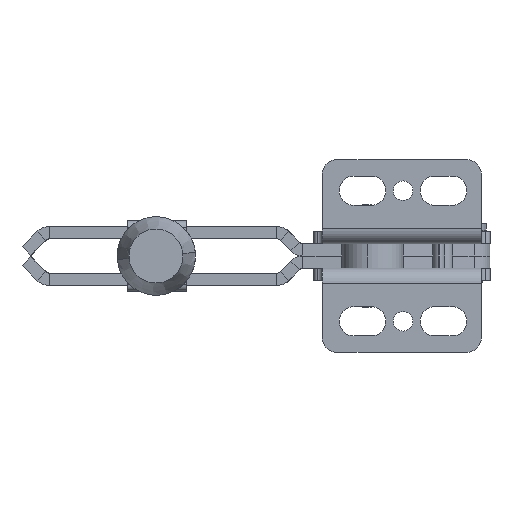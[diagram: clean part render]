
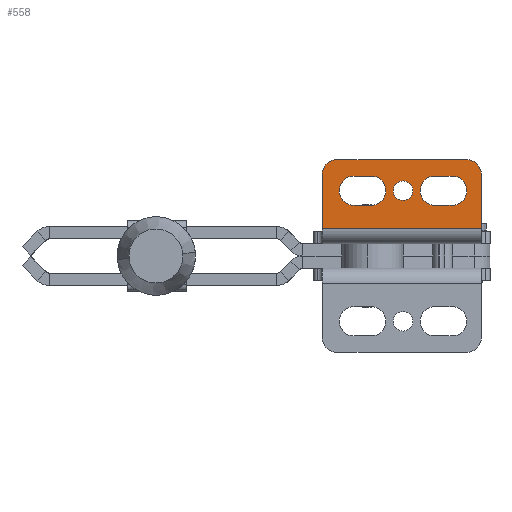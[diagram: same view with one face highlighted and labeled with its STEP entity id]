
A CAD part, front view. The second image highlights one B-rep face of the part: STEP entity #558.
In plain terms, the highlighted planar face has unit normal (0, -1, 0).
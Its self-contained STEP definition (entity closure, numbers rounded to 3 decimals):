
#81 = VERTEX_POINT ( 'NONE', #15462 ) ;
#450 = EDGE_CURVE ( 'NONE', #9881, #18048, #20553, .T. ) ;
#558 = ADVANCED_FACE ( 'NONE', ( #19271, #20766, #6140, #20893 ), #19028, .F. ) ;
#619 = CIRCLE ( 'NONE', #12895, 3. ) ;
#784 = DIRECTION ( 'NONE',  ( 1., 0., 0. ) ) ;
#863 = VERTEX_POINT ( 'NONE', #11070 ) ;
#865 = DIRECTION ( 'NONE',  ( 0., 0., -1. ) ) ;
#913 = VERTEX_POINT ( 'NONE', #22316 ) ;
#1269 = LINE ( 'NONE', #16247, #20391 ) ;
#1567 = AXIS2_PLACEMENT_3D ( 'NONE', #21122, #2183, #4160 ) ;
#1611 = DIRECTION ( 'NONE',  ( 0., 0., 1. ) ) ;
#1620 = DIRECTION ( 'NONE',  ( 0., 0., -1. ) ) ;
#1735 = EDGE_CURVE ( 'NONE', #863, #22487, #12477, .T. ) ;
#2183 = DIRECTION ( 'NONE',  ( 0., 1., 0. ) ) ;
#2268 = EDGE_CURVE ( 'NONE', #12042, #2457, #3217, .T. ) ;
#2290 = EDGE_LOOP ( 'NONE', ( #12207, #21790, #22093, #13622 ) ) ;
#2416 = EDGE_CURVE ( 'NONE', #18048, #6819, #19917, .T. ) ;
#2457 = VERTEX_POINT ( 'NONE', #12257 ) ;
#2560 = AXIS2_PLACEMENT_3D ( 'NONE', #2634, #19738, #23801 ) ;
#2634 = CARTESIAN_POINT ( 'NONE',  ( 29.25, 13.354, 14.147 ) ) ;
#2702 = CARTESIAN_POINT ( 'NONE',  ( 2.75, 13.354, 14.147 ) ) ;
#2823 = CARTESIAN_POINT ( 'NONE',  ( 6.25, 13.354, 7.822 ) ) ;
#3048 = ORIENTED_EDGE ( 'NONE', *, *, #15378, .F. ) ;
#3217 = LINE ( 'NONE', #12892, #11717 ) ;
#3477 = CARTESIAN_POINT ( 'NONE',  ( 16.25, 13.354, 10.822 ) ) ;
#3557 = VECTOR ( 'NONE', #865, 1000. ) ;
#3717 = EDGE_CURVE ( 'NONE', #913, #12042, #12505, .T. ) ;
#3753 = ORIENTED_EDGE ( 'NONE', *, *, #2268, .F. ) ;
#3757 = CARTESIAN_POINT ( 'NONE',  ( 2.75, 13.354, 17.147 ) ) ;
#3876 = DIRECTION ( 'NONE',  ( -1., 0., 0. ) ) ;
#4160 = DIRECTION ( 'NONE',  ( 1., 0., 0. ) ) ;
#4558 = VECTOR ( 'NONE', #18069, 1000. ) ;
#4626 = CIRCLE ( 'NONE', #5421, 3. ) ;
#4689 = CARTESIAN_POINT ( 'NONE',  ( 22.75, 13.354, 10.822 ) ) ;
#4969 = EDGE_CURVE ( 'NONE', #18059, #10076, #15889, .T. ) ;
#4981 = ORIENTED_EDGE ( 'NONE', *, *, #4969, .F. ) ;
#5230 = DIRECTION ( 'NONE',  ( 0., 0., -1. ) ) ;
#5292 = EDGE_CURVE ( 'NONE', #22487, #913, #10287, .T. ) ;
#5421 = AXIS2_PLACEMENT_3D ( 'NONE', #2702, #17551, #19540 ) ;
#5524 = CARTESIAN_POINT ( 'NONE',  ( 6.25, 13.354, 13.822 ) ) ;
#5642 = VERTEX_POINT ( 'NONE', #3757 ) ;
#5792 = CARTESIAN_POINT ( 'NONE',  ( 22.75, 13.354, 13.822 ) ) ;
#5793 = CARTESIAN_POINT ( 'NONE',  ( 26.25, 13.354, 7.822 ) ) ;
#6081 = CIRCLE ( 'NONE', #14788, 3. ) ;
#6083 = CARTESIAN_POINT ( 'NONE',  ( 26.25, 13.354, 13.822 ) ) ;
#6140 = FACE_BOUND ( 'NONE', #18006, .T. ) ;
#6506 = DIRECTION ( 'NONE',  ( 0., 0., -1. ) ) ;
#6776 = DIRECTION ( 'NONE',  ( 0., 0., -1. ) ) ;
#6819 = VERTEX_POINT ( 'NONE', #10435 ) ;
#6880 = CARTESIAN_POINT ( 'NONE',  ( 16.25, 13.354, 12.822 ) ) ;
#7441 = LINE ( 'NONE', #14525, #9457 ) ;
#8014 = CARTESIAN_POINT ( 'NONE',  ( 32.25, 13.354, 1.573 ) ) ;
#8082 = ORIENTED_EDGE ( 'NONE', *, *, #21905, .F. ) ;
#8695 = ORIENTED_EDGE ( 'NONE', *, *, #22930, .F. ) ;
#8735 = AXIS2_PLACEMENT_3D ( 'NONE', #10485, #18163, #6506 ) ;
#9110 = DIRECTION ( 'NONE',  ( 0., -1., 0. ) ) ;
#9457 = VECTOR ( 'NONE', #16369, 1000. ) ;
#9881 = VERTEX_POINT ( 'NONE', #17014 ) ;
#10076 = VERTEX_POINT ( 'NONE', #6880 ) ;
#10098 = ORIENTED_EDGE ( 'NONE', *, *, #2416, .F. ) ;
#10287 = LINE ( 'NONE', #8014, #3557 ) ;
#10351 = AXIS2_PLACEMENT_3D ( 'NONE', #14633, #22289, #5230 ) ;
#10435 = CARTESIAN_POINT ( 'NONE',  ( 9.75, 13.354, 7.822 ) ) ;
#10485 = CARTESIAN_POINT ( 'NONE',  ( 26.25, 13.354, 10.822 ) ) ;
#10860 = EDGE_CURVE ( 'NONE', #81, #14012, #1269, .T. ) ;
#11070 = CARTESIAN_POINT ( 'NONE',  ( 29.25, 13.354, 17.147 ) ) ;
#11131 = CIRCLE ( 'NONE', #8735, 3. ) ;
#11717 = VECTOR ( 'NONE', #1611, 1000. ) ;
#11826 = ORIENTED_EDGE ( 'NONE', *, *, #1735, .F. ) ;
#12019 = EDGE_CURVE ( 'NONE', #863, #5642, #7441, .T. ) ;
#12042 = VERTEX_POINT ( 'NONE', #16737 ) ;
#12122 = EDGE_LOOP ( 'NONE', ( #10098, #18222, #8082, #17004 ) ) ;
#12207 = ORIENTED_EDGE ( 'NONE', *, *, #15077, .F. ) ;
#12257 = CARTESIAN_POINT ( 'NONE',  ( -0.25, 13.354, 14.147 ) ) ;
#12477 = CIRCLE ( 'NONE', #2560, 3. ) ;
#12505 = LINE ( 'NONE', #21412, #4558 ) ;
#12892 = CARTESIAN_POINT ( 'NONE',  ( -0.25, 13.354, 0.013 ) ) ;
#12895 = AXIS2_PLACEMENT_3D ( 'NONE', #4689, #18176, #6776 ) ;
#13418 = CARTESIAN_POINT ( 'NONE',  ( 6.25, 13.354, 7.822 ) ) ;
#13622 = ORIENTED_EDGE ( 'NONE', *, *, #17132, .F. ) ;
#14012 = VERTEX_POINT ( 'NONE', #5793 ) ;
#14048 = VECTOR ( 'NONE', #19000, 1000. ) ;
#14246 = ORIENTED_EDGE ( 'NONE', *, *, #12019, .T. ) ;
#14291 = EDGE_CURVE ( 'NONE', #14012, #17916, #11131, .T. ) ;
#14525 = CARTESIAN_POINT ( 'NONE',  ( 0., 13.354, 17.147 ) ) ;
#14633 = CARTESIAN_POINT ( 'NONE',  ( 16.25, 13.354, 10.822 ) ) ;
#14788 = AXIS2_PLACEMENT_3D ( 'NONE', #20381, #9110, #16678 ) ;
#15077 = EDGE_CURVE ( 'NONE', #17916, #21046, #20966, .T. ) ;
#15378 = EDGE_CURVE ( 'NONE', #10076, #18059, #21092, .T. ) ;
#15462 = CARTESIAN_POINT ( 'NONE',  ( 22.75, 13.354, 7.822 ) ) ;
#15782 = EDGE_CURVE ( 'NONE', #6819, #23770, #6081, .T. ) ;
#15889 = CIRCLE ( 'NONE', #10351, 2. ) ;
#16247 = CARTESIAN_POINT ( 'NONE',  ( 26.25, 13.354, 7.822 ) ) ;
#16369 = DIRECTION ( 'NONE',  ( -1., 0., 0. ) ) ;
#16678 = DIRECTION ( 'NONE',  ( 0., 0., -1. ) ) ;
#16737 = CARTESIAN_POINT ( 'NONE',  ( -0.25, 13.354, 3.1 ) ) ;
#16879 = CARTESIAN_POINT ( 'NONE',  ( 16.25, 13.354, 8.822 ) ) ;
#16939 = DIRECTION ( 'NONE',  ( 0., -1., 0. ) ) ;
#17004 = ORIENTED_EDGE ( 'NONE', *, *, #15782, .F. ) ;
#17008 = ORIENTED_EDGE ( 'NONE', *, *, #3717, .F. ) ;
#17014 = CARTESIAN_POINT ( 'NONE',  ( 6.25, 13.354, 13.822 ) ) ;
#17132 = EDGE_CURVE ( 'NONE', #21046, #81, #619, .T. ) ;
#17530 = AXIS2_PLACEMENT_3D ( 'NONE', #3477, #20576, #1620 ) ;
#17551 = DIRECTION ( 'NONE',  ( 0., 1., 0. ) ) ;
#17916 = VERTEX_POINT ( 'NONE', #18257 ) ;
#18006 = EDGE_LOOP ( 'NONE', ( #3048, #4981 ) ) ;
#18048 = VERTEX_POINT ( 'NONE', #13418 ) ;
#18059 = VERTEX_POINT ( 'NONE', #16879 ) ;
#18069 = DIRECTION ( 'NONE',  ( -1., 0., 0. ) ) ;
#18131 = EDGE_LOOP ( 'NONE', ( #17008, #19420, #11826, #14246, #8695, #3753 ) ) ;
#18163 = DIRECTION ( 'NONE',  ( 0., -1., 0. ) ) ;
#18176 = DIRECTION ( 'NONE',  ( 0., -1., 0. ) ) ;
#18222 = ORIENTED_EDGE ( 'NONE', *, *, #450, .F. ) ;
#18257 = CARTESIAN_POINT ( 'NONE',  ( 26.25, 13.354, 13.822 ) ) ;
#19000 = DIRECTION ( 'NONE',  ( -1., 0., 0. ) ) ;
#19028 = PLANE ( 'NONE',  #1567 ) ;
#19271 = FACE_OUTER_BOUND ( 'NONE', #18131, .T. ) ;
#19420 = ORIENTED_EDGE ( 'NONE', *, *, #5292, .F. ) ;
#19518 = VECTOR ( 'NONE', #3876, 1000. ) ;
#19540 = DIRECTION ( 'NONE',  ( 1., 0., 0. ) ) ;
#19738 = DIRECTION ( 'NONE',  ( 0., 1., 0. ) ) ;
#19917 = LINE ( 'NONE', #2823, #24292 ) ;
#20340 = CARTESIAN_POINT ( 'NONE',  ( 9.75, 13.354, 13.822 ) ) ;
#20381 = CARTESIAN_POINT ( 'NONE',  ( 9.75, 13.354, 10.822 ) ) ;
#20391 = VECTOR ( 'NONE', #784, 1000. ) ;
#20532 = CARTESIAN_POINT ( 'NONE',  ( 6.25, 13.354, 10.822 ) ) ;
#20553 = CIRCLE ( 'NONE', #21734, 3. ) ;
#20576 = DIRECTION ( 'NONE',  ( 0., -1., 0. ) ) ;
#20766 = FACE_BOUND ( 'NONE', #2290, .T. ) ;
#20893 = FACE_BOUND ( 'NONE', #12122, .T. ) ;
#20966 = LINE ( 'NONE', #6083, #19518 ) ;
#21046 = VERTEX_POINT ( 'NONE', #5792 ) ;
#21092 = CIRCLE ( 'NONE', #17530, 2. ) ;
#21122 = CARTESIAN_POINT ( 'NONE',  ( 30., 13.354, -32.352 ) ) ;
#21412 = CARTESIAN_POINT ( 'NONE',  ( 30., 13.354, 3.1 ) ) ;
#21734 = AXIS2_PLACEMENT_3D ( 'NONE', #20532, #16939, #22017 ) ;
#21790 = ORIENTED_EDGE ( 'NONE', *, *, #14291, .F. ) ;
#21888 = DIRECTION ( 'NONE',  ( 1., 0., 0. ) ) ;
#21905 = EDGE_CURVE ( 'NONE', #23770, #9881, #22593, .T. ) ;
#22017 = DIRECTION ( 'NONE',  ( 0., 0., -1. ) ) ;
#22093 = ORIENTED_EDGE ( 'NONE', *, *, #10860, .F. ) ;
#22289 = DIRECTION ( 'NONE',  ( 0., -1., 0. ) ) ;
#22316 = CARTESIAN_POINT ( 'NONE',  ( 32.25, 13.354, 3.1 ) ) ;
#22487 = VERTEX_POINT ( 'NONE', #23273 ) ;
#22593 = LINE ( 'NONE', #5524, #14048 ) ;
#22930 = EDGE_CURVE ( 'NONE', #2457, #5642, #4626, .T. ) ;
#23273 = CARTESIAN_POINT ( 'NONE',  ( 32.25, 13.354, 14.147 ) ) ;
#23770 = VERTEX_POINT ( 'NONE', #20340 ) ;
#23801 = DIRECTION ( 'NONE',  ( 0., 0., 1. ) ) ;
#24292 = VECTOR ( 'NONE', #21888, 1000. ) ;
